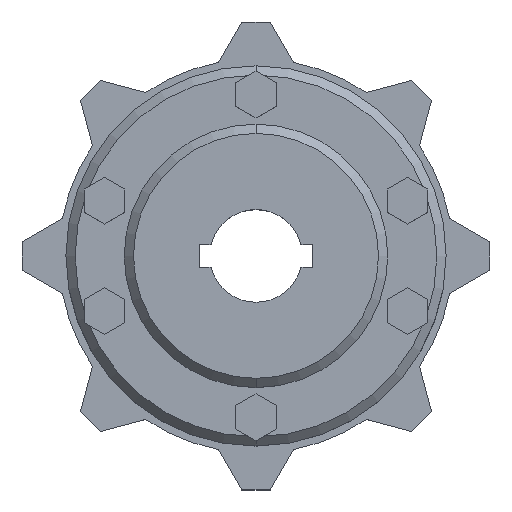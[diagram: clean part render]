
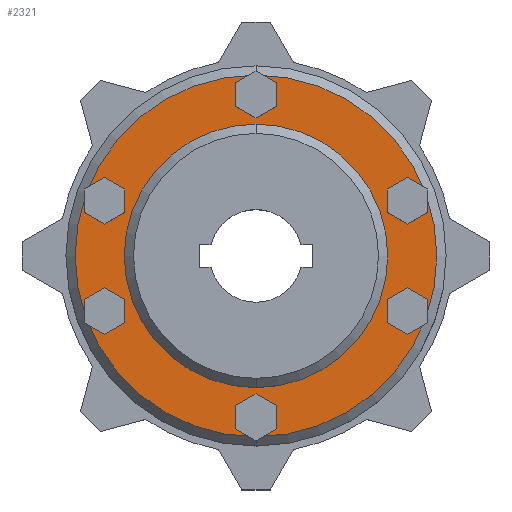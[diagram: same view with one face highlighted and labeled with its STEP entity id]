
A CAD part, top view. The second image highlights one B-rep face of the part: STEP entity #2321.
In plain terms, the highlighted planar face has unit normal (0, 0, 1) as drawn and (0, 1, 0) by its records, which use the part's own axes.
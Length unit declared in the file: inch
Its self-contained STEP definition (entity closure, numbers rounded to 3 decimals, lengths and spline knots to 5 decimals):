
#1817=CARTESIAN_POINT('',(0.,0.095,0.));
#1818=DIRECTION('',(0.,1.,0.));
#1819=DIRECTION('',(1.,0.,0.));
#1820=AXIS2_PLACEMENT_3D('',#1817,#1818,#1819);
#1827=CARTESIAN_POINT('',(0.,0.095,0.));
#1828=DIRECTION('',(0.,-1.,0.));
#1829=DIRECTION('',(1.,0.,0.));
#1830=AXIS2_PLACEMENT_3D('',#1827,#1828,#1829);
#1832=CARTESIAN_POINT('',(0.,0.095,0.));
#1833=DIRECTION('',(0.,-1.,0.));
#1834=DIRECTION('',(-1.,0.,0.));
#1835=AXIS2_PLACEMENT_3D('',#1832,#1833,#1834);
#1837=CARTESIAN_POINT('',(-1.74,0.095,0.));
#1838=DIRECTION('',(0.,-1.,0.));
#1839=DIRECTION('',(1.,0.,0.));
#1840=AXIS2_PLACEMENT_3D('',#1837,#1838,#1839);
#1842=CARTESIAN_POINT('',(-1.74,0.095,0.));
#1843=DIRECTION('',(0.,-1.,0.));
#1844=DIRECTION('',(-1.,0.,0.));
#1845=AXIS2_PLACEMENT_3D('',#1842,#1843,#1844);
#1847=CARTESIAN_POINT('',(-0.59529,0.095,-1.635));
#1848=DIRECTION('',(0.,-1.,0.));
#1849=DIRECTION('',(1.,0.,0.));
#1850=AXIS2_PLACEMENT_3D('',#1847,#1848,#1849);
#1852=CARTESIAN_POINT('',(-0.59529,0.095,-1.635));
#1853=DIRECTION('',(0.,-1.,0.));
#1854=DIRECTION('',(-1.,0.,0.));
#1855=AXIS2_PLACEMENT_3D('',#1852,#1853,#1854);
#1857=CARTESIAN_POINT('',(0.59529,0.095,-1.635));
#1858=DIRECTION('',(0.,-1.,0.));
#1859=DIRECTION('',(1.,0.,0.));
#1860=AXIS2_PLACEMENT_3D('',#1857,#1858,#1859);
#1862=CARTESIAN_POINT('',(0.59529,0.095,-1.635));
#1863=DIRECTION('',(0.,-1.,0.));
#1864=DIRECTION('',(-1.,0.,0.));
#1865=AXIS2_PLACEMENT_3D('',#1862,#1863,#1864);
#1867=CARTESIAN_POINT('',(1.74,0.095,0.));
#1868=DIRECTION('',(0.,-1.,0.));
#1869=DIRECTION('',(1.,0.,0.));
#1870=AXIS2_PLACEMENT_3D('',#1867,#1868,#1869);
#1872=CARTESIAN_POINT('',(1.74,0.095,0.));
#1873=DIRECTION('',(0.,-1.,0.));
#1874=DIRECTION('',(-1.,0.,0.));
#1875=AXIS2_PLACEMENT_3D('',#1872,#1873,#1874);
#1877=CARTESIAN_POINT('',(-0.59529,0.095,1.635));
#1878=DIRECTION('',(0.,1.,0.));
#1879=DIRECTION('',(1.,0.,0.));
#1880=AXIS2_PLACEMENT_3D('',#1877,#1878,#1879);
#1882=CARTESIAN_POINT('',(-0.59529,0.095,1.635));
#1883=DIRECTION('',(0.,1.,0.));
#1884=DIRECTION('',(-1.,0.,0.));
#1885=AXIS2_PLACEMENT_3D('',#1882,#1883,#1884);
#1887=CARTESIAN_POINT('',(0.59529,0.095,1.635));
#1888=DIRECTION('',(0.,1.,0.));
#1889=DIRECTION('',(1.,0.,0.));
#1890=AXIS2_PLACEMENT_3D('',#1887,#1888,#1889);
#1892=CARTESIAN_POINT('',(0.59529,0.095,1.635));
#1893=DIRECTION('',(0.,1.,0.));
#1894=DIRECTION('',(-1.,0.,0.));
#1895=AXIS2_PLACEMENT_3D('',#1892,#1893,#1894);
#1999=CARTESIAN_POINT('',(0.,0.095,0.));
#2000=DIRECTION('',(0.,1.,0.));
#2001=DIRECTION('',(-1.,0.,0.));
#2002=AXIS2_PLACEMENT_3D('',#1999,#2000,#2001);
#2073=CARTESIAN_POINT('',(1.4205,0.095,0.));
#2074=CARTESIAN_POINT('',(-1.4205,0.095,0.));
#2075=VERTEX_POINT('',#2073);
#2076=VERTEX_POINT('',#2074);
#2077=CARTESIAN_POINT('',(1.95,0.095,0.));
#2078=CARTESIAN_POINT('',(-1.95,0.095,0.));
#2079=VERTEX_POINT('',#2077);
#2080=VERTEX_POINT('',#2078);
#2089=CARTESIAN_POINT('',(-1.613,0.095,0.));
#2090=CARTESIAN_POINT('',(-1.867,0.095,0.));
#2091=VERTEX_POINT('',#2089);
#2092=VERTEX_POINT('',#2090);
#2105=CARTESIAN_POINT('',(-0.46829,0.095,-1.635));
#2106=CARTESIAN_POINT('',(-0.72229,0.095,-1.635));
#2107=VERTEX_POINT('',#2105);
#2108=VERTEX_POINT('',#2106);
#2109=CARTESIAN_POINT('',(0.72229,0.095,-1.635));
#2110=CARTESIAN_POINT('',(0.46829,0.095,-1.635));
#2111=VERTEX_POINT('',#2109);
#2112=VERTEX_POINT('',#2110);
#2113=CARTESIAN_POINT('',(1.867,0.095,0.));
#2114=CARTESIAN_POINT('',(1.613,0.095,0.));
#2115=VERTEX_POINT('',#2113);
#2116=VERTEX_POINT('',#2114);
#2125=CARTESIAN_POINT('',(-0.46829,0.095,1.635));
#2126=CARTESIAN_POINT('',(-0.72229,0.095,1.635));
#2127=VERTEX_POINT('',#2125);
#2128=VERTEX_POINT('',#2126);
#2129=CARTESIAN_POINT('',(0.72229,0.095,1.635));
#2130=CARTESIAN_POINT('',(0.46829,0.095,1.635));
#2131=VERTEX_POINT('',#2129);
#2132=VERTEX_POINT('',#2130);
#2269=CARTESIAN_POINT('',(0.,0.095,0.));
#2270=DIRECTION('',(0.,1.,0.));
#2271=DIRECTION('',(1.,0.,0.));
#2272=AXIS2_PLACEMENT_3D('',#2269,#2270,#2271);
#2273=PLANE('',#2272);
#2274=ORIENTED_EDGE('',*,*,#2259,.F.);
#2276=ORIENTED_EDGE('',*,*,#2275,.F.);
#2277=EDGE_LOOP('',(#2274,#2276));
#2278=FACE_OUTER_BOUND('',#2277,.F.);
#2280=ORIENTED_EDGE('',*,*,#2279,.F.);
#2282=ORIENTED_EDGE('',*,*,#2281,.F.);
#2283=EDGE_LOOP('',(#2280,#2282));
#2284=FACE_BOUND('',#2283,.F.);
#2286=ORIENTED_EDGE('',*,*,#2285,.F.);
#2288=ORIENTED_EDGE('',*,*,#2287,.F.);
#2289=EDGE_LOOP('',(#2286,#2288));
#2290=FACE_BOUND('',#2289,.F.);
#2292=ORIENTED_EDGE('',*,*,#2291,.F.);
#2294=ORIENTED_EDGE('',*,*,#2293,.F.);
#2295=EDGE_LOOP('',(#2292,#2294));
#2296=FACE_BOUND('',#2295,.F.);
#2298=ORIENTED_EDGE('',*,*,#2297,.F.);
#2300=ORIENTED_EDGE('',*,*,#2299,.F.);
#2301=EDGE_LOOP('',(#2298,#2300));
#2302=FACE_BOUND('',#2301,.F.);
#2304=ORIENTED_EDGE('',*,*,#2303,.F.);
#2306=ORIENTED_EDGE('',*,*,#2305,.F.);
#2307=EDGE_LOOP('',(#2304,#2306));
#2308=FACE_BOUND('',#2307,.F.);
#2310=ORIENTED_EDGE('',*,*,#2309,.T.);
#2312=ORIENTED_EDGE('',*,*,#2311,.T.);
#2313=EDGE_LOOP('',(#2310,#2312));
#2314=FACE_BOUND('',#2313,.F.);
#2316=ORIENTED_EDGE('',*,*,#2315,.T.);
#2318=ORIENTED_EDGE('',*,*,#2317,.T.);
#2319=EDGE_LOOP('',(#2316,#2318));
#2320=FACE_BOUND('',#2319,.F.);
#2321=ADVANCED_FACE('',(#2278,#2284,#2290,#2296,#2302,#2308,#2314,#2320),#2273,
.T.);
#1821=CIRCLE('',#1820,1.95);
#1831=CIRCLE('',#1830,1.4205);
#1836=CIRCLE('',#1835,1.4205);
#1841=CIRCLE('',#1840,0.127);
#1846=CIRCLE('',#1845,0.127);
#1851=CIRCLE('',#1850,0.127);
#1856=CIRCLE('',#1855,0.127);
#1861=CIRCLE('',#1860,0.127);
#1866=CIRCLE('',#1865,0.127);
#1871=CIRCLE('',#1870,0.127);
#1876=CIRCLE('',#1875,0.127);
#1881=CIRCLE('',#1880,0.127);
#1886=CIRCLE('',#1885,0.127);
#1891=CIRCLE('',#1890,0.127);
#1896=CIRCLE('',#1895,0.127);
#2003=CIRCLE('',#2002,1.95);
#2259=EDGE_CURVE('',#2079,#2080,#1821,.T.);
#2275=EDGE_CURVE('',#2080,#2079,#2003,.T.);
#2279=EDGE_CURVE('',#2075,#2076,#1831,.T.);
#2281=EDGE_CURVE('',#2076,#2075,#1836,.T.);
#2285=EDGE_CURVE('',#2091,#2092,#1841,.T.);
#2287=EDGE_CURVE('',#2092,#2091,#1846,.T.);
#2291=EDGE_CURVE('',#2107,#2108,#1851,.T.);
#2293=EDGE_CURVE('',#2108,#2107,#1856,.T.);
#2297=EDGE_CURVE('',#2111,#2112,#1861,.T.);
#2299=EDGE_CURVE('',#2112,#2111,#1866,.T.);
#2303=EDGE_CURVE('',#2115,#2116,#1871,.T.);
#2305=EDGE_CURVE('',#2116,#2115,#1876,.T.);
#2309=EDGE_CURVE('',#2127,#2128,#1881,.T.);
#2311=EDGE_CURVE('',#2128,#2127,#1886,.T.);
#2315=EDGE_CURVE('',#2131,#2132,#1891,.T.);
#2317=EDGE_CURVE('',#2132,#2131,#1896,.T.);
